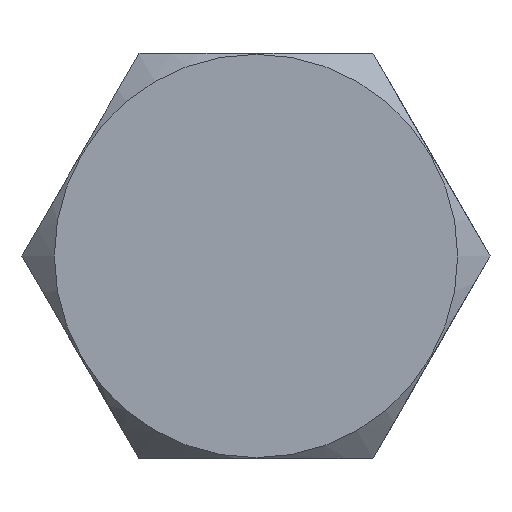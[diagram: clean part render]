
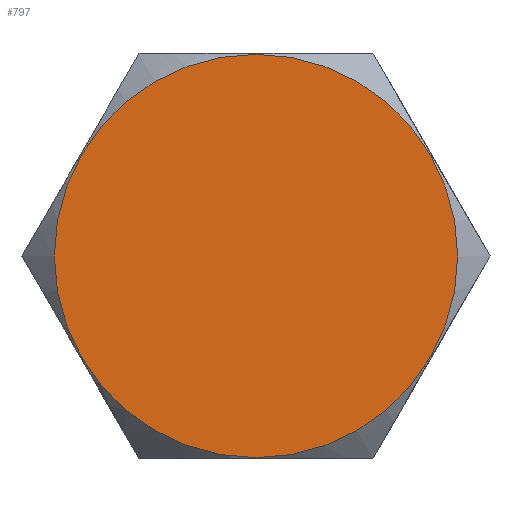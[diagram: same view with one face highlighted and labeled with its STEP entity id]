
A CAD part, front view. The second image highlights one B-rep face of the part: STEP entity #797.
In plain terms, the highlighted planar face has unit normal (0, -1, 0).
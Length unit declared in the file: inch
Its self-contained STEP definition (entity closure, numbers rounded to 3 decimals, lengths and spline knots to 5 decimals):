
#73=PLANE('',#906);
#181=FACE_OUTER_BOUND('',#232,.T.);
#232=EDGE_LOOP('',(#652));
#283=CIRCLE('',#905,0.4975);
#372=VERTEX_POINT('',#1450);
#473=EDGE_CURVE('',#372,#372,#283,.T.);
#652=ORIENTED_EDGE('',*,*,#473,.F.);
#797=ADVANCED_FACE('',(#181),#73,.T.);
#905=AXIS2_PLACEMENT_3D('',#1451,#1091,#1092);
#906=AXIS2_PLACEMENT_3D('',#1453,#1094,#1095);
#1091=DIRECTION('center_axis',(0.,1.,0.));
#1092=DIRECTION('ref_axis',(0.,0.,1.));
#1094=DIRECTION('center_axis',(0.,-1.,0.));
#1095=DIRECTION('ref_axis',(0.,0.,-1.));
#1450=CARTESIAN_POINT('',(0.,0.,-0.4975));
#1451=CARTESIAN_POINT('Origin',(0.,0.,0.));
#1453=CARTESIAN_POINT('Origin',(0.,0.,0.));
